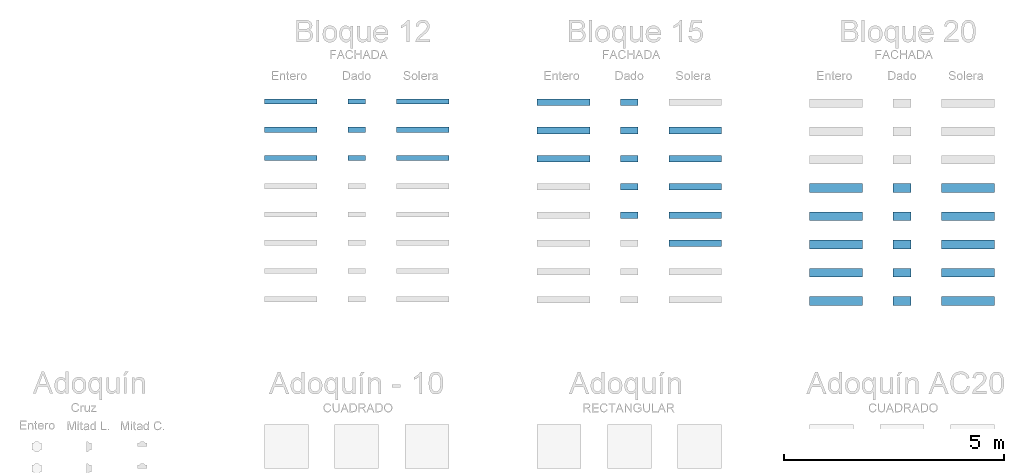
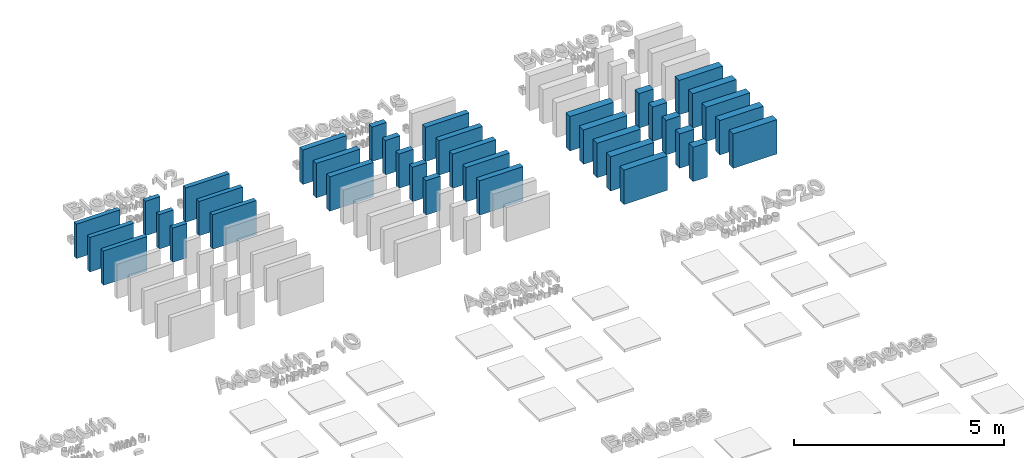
# One storey, part 4 of 19: 37 walls.
"""IFC2X3 building model written with IfcOpenShell, lengths in metres."""

from ifc_helpers import new_model, entity, si_unit, converted_unit, derived_unit, direction, frame, frame_2d, origin, place, context, subcontext, project, spatial, rectangle, extrude, material, layer, layer_set, layer_usage, type_object, element, save


model = new_model("IFC2X3")

# Units and contexts
model_context = context("Model", 3, precision=1e-05, world=origin(), true_north=direction((6.12303176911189e-17, 1.0)))
body_context = subcontext(model_context, "Body", "Model", "MODEL_VIEW")
ifc_project = project(units=[si_unit("LENGTHUNIT", "METRE"), si_unit("AREAUNIT", "SQUARE_METRE"), si_unit("VOLUMEUNIT", "CUBIC_METRE"), converted_unit("PLANEANGLEUNIT", "DEGREE", entity("IfcRatioMeasure", 0.0174532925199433), si_unit("PLANEANGLEUNIT", "RADIAN"), dimensions=[0, 0, 0, 0, 0, 0, 0]), si_unit("MASSUNIT", "GRAM", prefix="KILO"), derived_unit("MASSDENSITYUNIT", [(si_unit("MASSUNIT", "GRAM", prefix="KILO"), 1), (si_unit("LENGTHUNIT", "METRE"), -3)]), derived_unit("MOMENTOFINERTIAUNIT", [(si_unit("LENGTHUNIT", "METRE"), 4)]), si_unit("TIMEUNIT", "SECOND"), si_unit("FREQUENCYUNIT", "HERTZ"), si_unit("THERMODYNAMICTEMPERATUREUNIT", "DEGREE_CELSIUS"), derived_unit("THERMALTRANSMITTANCEUNIT", [(si_unit("MASSUNIT", "GRAM", prefix="KILO"), 1), (si_unit("THERMODYNAMICTEMPERATUREUNIT", "KELVIN"), -1), (si_unit("TIMEUNIT", "SECOND"), -3)]), derived_unit("VOLUMETRICFLOWRATEUNIT", [(si_unit("LENGTHUNIT", "METRE"), 3), (si_unit("TIMEUNIT", "SECOND"), -1)]), si_unit("ELECTRICCURRENTUNIT", "AMPERE"), si_unit("ELECTRICVOLTAGEUNIT", "VOLT"), si_unit("POWERUNIT", "WATT"), si_unit("FORCEUNIT", "NEWTON", prefix="KILO"), si_unit("ILLUMINANCEUNIT", "LUX"), si_unit("LUMINOUSFLUXUNIT", "LUMEN"), si_unit("LUMINOUSINTENSITYUNIT", "CANDELA"), derived_unit("USERDEFINED", [(si_unit("MASSUNIT", "GRAM", prefix="KILO"), -1), (si_unit("LENGTHUNIT", "METRE"), -2), (si_unit("TIMEUNIT", "SECOND"), 3), (si_unit("LUMINOUSFLUXUNIT", "LUMEN"), 1)]), derived_unit("LINEARVELOCITYUNIT", [(si_unit("LENGTHUNIT", "METRE"), 1), (si_unit("TIMEUNIT", "SECOND"), -1)]), si_unit("PRESSUREUNIT", "PASCAL"), derived_unit("USERDEFINED", [(si_unit("LENGTHUNIT", "METRE"), -2), (si_unit("MASSUNIT", "GRAM", prefix="KILO"), 1), (si_unit("TIMEUNIT", "SECOND"), -2)]), derived_unit("LINEARFORCEUNIT", [(si_unit("MASSUNIT", "GRAM", prefix="KILO"), 1), (si_unit("LENGTHUNIT", "METRE"), 1), (si_unit("TIMEUNIT", "SECOND"), -2), (si_unit("LENGTHUNIT", "METRE"), -1)]), derived_unit("PLANARFORCEUNIT", [(si_unit("MASSUNIT", "GRAM", prefix="KILO"), 1), (si_unit("LENGTHUNIT", "METRE"), 1), (si_unit("TIMEUNIT", "SECOND"), -2), (si_unit("LENGTHUNIT", "METRE"), -2)])], contexts=[model_context])

# Site, building, storey
site_placement = place(None, origin())
site = spatial("IfcSite", under=ifc_project, at=site_placement, Name="Default", CompositionType="ELEMENT")
building_placement = place(site_placement, origin())
building = spatial("IfcBuilding", under=site, at=building_placement, CompositionType="ELEMENT")
storey_placement = place(building_placement, origin())
storey = spatial("IfcBuildingStorey", under=building, at=storey_placement, Name="Nivel 1", CompositionType="ELEMENT", Elevation=0.0)

# Walls
ifc_material_1 = material(Name="Bloque - Natural")
ifc_layer_1 = layer(ifc_material_1, 0.12)
ifc_layer_set_1 = layer_set([ifc_layer_1], Name="Muro básico:Bloque 12 / Fachada - Natural")
ifc_layer_usage_1 = layer_usage(ifc_layer_set_1, "AXIS2", "NEGATIVE", 0.06)
wall_type_1 = type_object("IfcWallType", Name="Muro básico:Bloque 12 / Fachada - Natural", PredefinedType="STANDARD", material=ifc_layer_set_1)
wall_1_placement = place(storey_placement, frame((-5.44851232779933, 9.56087767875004, 0.0)))
element("IfcWallStandardCase", 1, at=wall_1_placement, inside=storey, type_object=wall_type_1, material=ifc_layer_usage_1, Name="Muro básico:Bloque 12 / Fachada - Natural", ObjectType="Muro básico:Bloque 12 / Fachada - Natural", context=body_context, shape_type="SweptSolid", body=[
    extrude(rectangle(XDim=1.2, YDim=0.120000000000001, at=frame_2d((0.6, 4.5102810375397e-17), x_axis=(-1.0, 0.0))), origin(), (0.0, 0.0, 1.0), 1.0),
])
ifc_material_2 = material(Name="Bloque - Rosado")
ifc_layer_2 = layer(ifc_material_2, 0.12)
ifc_layer_set_2 = layer_set([ifc_layer_2], Name="Muro básico:Bloque 12 / Fachada - Rosado")
ifc_layer_usage_2 = layer_usage(ifc_layer_set_2, "AXIS2", "NEGATIVE", 0.06)
wall_type_2 = type_object("IfcWallType", Name="Muro básico:Bloque 12 / Fachada - Rosado", PredefinedType="STANDARD", material=ifc_layer_set_2)
wall_2_placement = place(storey_placement, frame((-5.44851232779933, 8.91899828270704, 0.0)))
element("IfcWallStandardCase", 2, at=wall_2_placement, inside=storey, type_object=wall_type_2, material=ifc_layer_usage_2, Name="Muro básico:Bloque 12 / Fachada - Rosado", ObjectType="Muro básico:Bloque 12 / Fachada - Rosado", context=body_context, shape_type="SweptSolid", body=[
    extrude(rectangle(XDim=1.2, YDim=0.120000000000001, at=frame_2d((0.6, 2.4980018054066e-16), x_axis=(-1.0, 0.0))), origin(), (0.0, 0.0, 1.0), 1.0),
])
ifc_material_3 = material(Name="Bloque - Rojo")
ifc_layer_3 = layer(ifc_material_3, 0.12)
ifc_layer_set_3 = layer_set([ifc_layer_3], Name="Muro básico:Bloque 12 / Fachada - Rojo")
ifc_layer_usage_3 = layer_usage(ifc_layer_set_3, "AXIS2", "NEGATIVE", 0.06)
wall_type_3 = type_object("IfcWallType", Name="Muro básico:Bloque 12 / Fachada - Rojo", PredefinedType="STANDARD", material=ifc_layer_set_3)
wall_3_placement = place(storey_placement, frame((-5.44851232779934, 8.27711888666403, 0.0)))
element("IfcWallStandardCase", 3, at=wall_3_placement, inside=storey, type_object=wall_type_3, material=ifc_layer_usage_3, Name="Muro básico:Bloque 12 / Fachada - Rojo", ObjectType="Muro básico:Bloque 12 / Fachada - Rojo", context=body_context, shape_type="SweptSolid", body=[
    extrude(rectangle(XDim=1.2, YDim=0.120000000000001, at=frame_2d((0.6, 2.4980018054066e-16), x_axis=(-1.0, 0.0))), origin(), (0.0, 0.0, 1.0), 1.0),
])
ifc_material_4 = material(Name="Bloque (Dado) - Natural")
ifc_layer_4 = layer(ifc_material_4, 0.12)
ifc_layer_set_4 = layer_set([ifc_layer_4], Name="Muro básico:Bloque 12 (Dado) / Fachada - Natural")
ifc_layer_usage_4 = layer_usage(ifc_layer_set_4, "AXIS2", "NEGATIVE", 0.06)
wall_type_4 = type_object("IfcWallType", Name="Muro básico:Bloque 12 (Dado) / Fachada - Natural", PredefinedType="STANDARD", material=ifc_layer_set_4)
wall_4_placement = place(storey_placement, frame((-3.54851232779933, 9.56087767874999, 0.0)))
element("IfcWallStandardCase", 4, at=wall_4_placement, inside=storey, type_object=wall_type_4, material=ifc_layer_usage_4, Name="Muro básico:Bloque 12 (Dado) / Fachada - Natural", ObjectType="Muro básico:Bloque 12 (Dado) / Fachada - Natural", context=body_context, shape_type="SweptSolid", body=[
    extrude(rectangle(XDim=0.4, YDim=0.120000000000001, at=frame_2d((0.2, 1.38777878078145e-17), x_axis=(-1.0, 0.0))), origin(), (0.0, 0.0, 1.0), 1.0),
])
ifc_material_5 = material(Name="Bloque (Dado) - Rosado")
ifc_layer_5 = layer(ifc_material_5, 0.12)
ifc_layer_set_5 = layer_set([ifc_layer_5], Name="Muro básico:Bloque 12 (Dado) / Fachada - Rosado")
ifc_layer_usage_5 = layer_usage(ifc_layer_set_5, "AXIS2", "NEGATIVE", 0.06)
wall_type_5 = type_object("IfcWallType", Name="Muro básico:Bloque 12 (Dado) / Fachada - Rosado", PredefinedType="STANDARD", material=ifc_layer_set_5)
wall_5_placement = place(storey_placement, frame((-3.54851232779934, 8.91899828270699, 0.0)))
element("IfcWallStandardCase", 5, at=wall_5_placement, inside=storey, type_object=wall_type_5, material=ifc_layer_usage_5, Name="Muro básico:Bloque 12 (Dado) / Fachada - Rosado", ObjectType="Muro básico:Bloque 12 (Dado) / Fachada - Rosado", context=body_context, shape_type="SweptSolid", body=[
    extrude(rectangle(XDim=0.4, YDim=0.120000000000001, at=frame_2d((0.2, 1.38777878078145e-17), x_axis=(-1.0, 0.0))), origin(), (0.0, 0.0, 1.0), 1.0),
])
ifc_material_6 = material(Name="Bloque (Dado) - Rojo")
ifc_layer_6 = layer(ifc_material_6, 0.12)
ifc_layer_set_6 = layer_set([ifc_layer_6], Name="Muro básico:Bloque 12 (Dado) / Fachada - Rojo")
ifc_layer_usage_6 = layer_usage(ifc_layer_set_6, "AXIS2", "NEGATIVE", 0.06)
wall_type_6 = type_object("IfcWallType", Name="Muro básico:Bloque 12 (Dado) / Fachada - Rojo", PredefinedType="STANDARD", material=ifc_layer_set_6)
wall_6_placement = place(storey_placement, frame((-3.54851232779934, 8.27711888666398, 0.0)))
element("IfcWallStandardCase", 6, at=wall_6_placement, inside=storey, type_object=wall_type_6, material=ifc_layer_usage_6, Name="Muro básico:Bloque 12 (Dado) / Fachada - Rojo", ObjectType="Muro básico:Bloque 12 (Dado) / Fachada - Rojo", context=body_context, shape_type="SweptSolid", body=[
    extrude(rectangle(XDim=0.4, YDim=0.120000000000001, at=frame_2d((0.2, 1.38777878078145e-17), x_axis=(-1.0, 0.0))), origin(), (0.0, 0.0, 1.0), 1.0),
])
ifc_layer_7 = layer(ifc_material_1, 0.12)
ifc_layer_set_7 = layer_set([ifc_layer_7], Name="Muro básico:Bloque 12 (Solera) / Fachada - Natural")
ifc_layer_usage_7 = layer_usage(ifc_layer_set_7, "AXIS2", "NEGATIVE", 0.06)
wall_type_7 = type_object("IfcWallType", Name="Muro básico:Bloque 12 (Solera) / Fachada - Natural", PredefinedType="STANDARD", material=ifc_layer_set_7)
wall_7_placement = place(storey_placement, frame((-2.44851232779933, 9.56087767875, 0.0)))
element("IfcWallStandardCase", 7, at=wall_7_placement, inside=storey, type_object=wall_type_7, material=ifc_layer_usage_7, Name="Muro básico:Bloque 12 (Solera) / Fachada - Natural", ObjectType="Muro básico:Bloque 12 (Solera) / Fachada - Natural", context=body_context, shape_type="SweptSolid", body=[
    extrude(rectangle(XDim=1.2, YDim=0.120000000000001, at=frame_2d((0.6, 4.5102810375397e-17), x_axis=(-1.0, 0.0))), origin(), (0.0, 0.0, 1.0), 1.0),
])
ifc_layer_8 = layer(ifc_material_2, 0.12)
ifc_layer_set_8 = layer_set([ifc_layer_8], Name="Muro básico:Bloque 12 (Solera) / Fachada - Rosado")
ifc_layer_usage_8 = layer_usage(ifc_layer_set_8, "AXIS2", "NEGATIVE", 0.06)
wall_type_8 = type_object("IfcWallType", Name="Muro básico:Bloque 12 (Solera) / Fachada - Rosado", PredefinedType="STANDARD", material=ifc_layer_set_8)
wall_8_placement = place(storey_placement, frame((-2.44851232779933, 8.91899828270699, 0.0)))
element("IfcWallStandardCase", 8, at=wall_8_placement, inside=storey, type_object=wall_type_8, material=ifc_layer_usage_8, Name="Muro básico:Bloque 12 (Solera) / Fachada - Rosado", ObjectType="Muro básico:Bloque 12 (Solera) / Fachada - Rosado", context=body_context, shape_type="SweptSolid", body=[
    extrude(rectangle(XDim=1.2, YDim=0.120000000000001, at=frame_2d((0.600000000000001, 2.4980018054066e-16), x_axis=(-1.0, 0.0))), origin(), (0.0, 0.0, 1.0), 1.0),
])
ifc_layer_9 = layer(ifc_material_3, 0.12)
ifc_layer_set_9 = layer_set([ifc_layer_9], Name="Muro básico:Bloque 12 (Solera) / Fachada - Rojo")
ifc_layer_usage_9 = layer_usage(ifc_layer_set_9, "AXIS2", "NEGATIVE", 0.06)
wall_type_9 = type_object("IfcWallType", Name="Muro básico:Bloque 12 (Solera) / Fachada - Rojo", PredefinedType="STANDARD", material=ifc_layer_set_9)
wall_9_placement = place(storey_placement, frame((-2.44851232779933, 8.27711888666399, 0.0)))
element("IfcWallStandardCase", 9, at=wall_9_placement, inside=storey, type_object=wall_type_9, material=ifc_layer_usage_9, Name="Muro básico:Bloque 12 (Solera) / Fachada - Rojo", ObjectType="Muro básico:Bloque 12 (Solera) / Fachada - Rojo", context=body_context, shape_type="SweptSolid", body=[
    extrude(rectangle(XDim=1.2, YDim=0.120000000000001, at=frame_2d((0.600000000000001, 2.4980018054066e-16), x_axis=(-1.0, 0.0))), origin(), (0.0, 0.0, 1.0), 1.0),
])
ifc_layer_10 = layer(ifc_material_1, 0.15)
ifc_layer_set_10 = layer_set([ifc_layer_10], Name="Muro básico:Bloque 15 / Fachada - Natural")
ifc_layer_usage_10 = layer_usage(ifc_layer_set_10, "AXIS2", "NEGATIVE", 0.075)
wall_type_10 = type_object("IfcWallType", Name="Muro básico:Bloque 15 / Fachada - Natural", PredefinedType="STANDARD", material=ifc_layer_set_10)
wall_10_placement = place(storey_placement, frame((0.751487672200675, 9.54587767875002, 0.0)))
element("IfcWallStandardCase", 10, at=wall_10_placement, inside=storey, type_object=wall_type_10, material=ifc_layer_usage_10, Name="Muro básico:Bloque 15 / Fachada - Natural", ObjectType="Muro básico:Bloque 15 / Fachada - Natural", context=body_context, shape_type="SweptSolid", body=[
    extrude(rectangle(XDim=1.2, YDim=0.150000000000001, at=frame_2d((0.6, 4.16333634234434e-17), x_axis=(-1.0, 0.0))), origin(), (0.0, 0.0, 1.0), 1.0),
])
ifc_layer_11 = layer(ifc_material_4, 0.15)
ifc_layer_set_11 = layer_set([ifc_layer_11], Name="Muro básico:Bloque 15 (Dado) / Fachada - Natural")
ifc_layer_usage_11 = layer_usage(ifc_layer_set_11, "AXIS2", "NEGATIVE", 0.075)
wall_type_11 = type_object("IfcWallType", Name="Muro básico:Bloque 15 (Dado) / Fachada - Natural", PredefinedType="STANDARD", material=ifc_layer_set_11)
wall_11_placement = place(storey_placement, frame((2.65148767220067, 9.54587767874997, 0.0)))
element("IfcWallStandardCase", 11, at=wall_11_placement, inside=storey, type_object=wall_type_11, material=ifc_layer_usage_11, Name="Muro básico:Bloque 15 (Dado) / Fachada - Natural", ObjectType="Muro básico:Bloque 15 (Dado) / Fachada - Natural", context=body_context, shape_type="SweptSolid", body=[
    extrude(rectangle(XDim=0.4, YDim=0.150000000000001, at=frame_2d((0.2, 1.38777878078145e-17), x_axis=(-1.0, 0.0))), origin(), (0.0, 0.0, 1.0), 1.0),
])
ifc_layer_12 = layer(ifc_material_2, 0.15)
ifc_layer_set_12 = layer_set([ifc_layer_12], Name="Muro básico:Bloque 15 / Fachada - Rosado")
ifc_layer_usage_12 = layer_usage(ifc_layer_set_12, "AXIS2", "NEGATIVE", 0.075)
wall_type_12 = type_object("IfcWallType", Name="Muro básico:Bloque 15 / Fachada - Rosado", PredefinedType="STANDARD", material=ifc_layer_set_12)
wall_12_placement = place(storey_placement, frame((0.751487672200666, 8.90399828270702, 0.0)))
element("IfcWallStandardCase", 12, at=wall_12_placement, inside=storey, type_object=wall_type_12, material=ifc_layer_usage_12, Name="Muro básico:Bloque 15 / Fachada - Rosado", ObjectType="Muro básico:Bloque 15 / Fachada - Rosado", context=body_context, shape_type="SweptSolid", body=[
    extrude(rectangle(XDim=1.2, YDim=0.150000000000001, at=frame_2d((0.6, 4.16333634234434e-17), x_axis=(-1.0, 0.0))), origin(), (0.0, 0.0, 1.0), 1.0),
])
ifc_layer_13 = layer(ifc_material_3, 0.15)
ifc_layer_set_13 = layer_set([ifc_layer_13], Name="Muro básico:Bloque 15 / Fachada - Rojo")
ifc_layer_usage_13 = layer_usage(ifc_layer_set_13, "AXIS2", "NEGATIVE", 0.075)
wall_type_13 = type_object("IfcWallType", Name="Muro básico:Bloque 15 / Fachada - Rojo", PredefinedType="STANDARD", material=ifc_layer_set_13)
wall_13_placement = place(storey_placement, frame((0.751487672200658, 8.26211888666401, 0.0)))
element("IfcWallStandardCase", 13, at=wall_13_placement, inside=storey, type_object=wall_type_13, material=ifc_layer_usage_13, Name="Muro básico:Bloque 15 / Fachada - Rojo", ObjectType="Muro básico:Bloque 15 / Fachada - Rojo", context=body_context, shape_type="SweptSolid", body=[
    extrude(rectangle(XDim=1.2, YDim=0.150000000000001, at=frame_2d((0.6, 4.16333634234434e-17), x_axis=(-1.0, 0.0))), origin(), (0.0, 0.0, 1.0), 1.0),
])
ifc_layer_14 = layer(ifc_material_5, 0.15)
ifc_layer_set_14 = layer_set([ifc_layer_14], Name="Muro básico:Bloque 15 (Dado) / Fachada - Rosado")
ifc_layer_usage_14 = layer_usage(ifc_layer_set_14, "AXIS2", "NEGATIVE", 0.075)
wall_type_14 = type_object("IfcWallType", Name="Muro básico:Bloque 15 (Dado) / Fachada - Rosado", PredefinedType="STANDARD", material=ifc_layer_set_14)
wall_14_placement = place(storey_placement, frame((2.65148767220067, 8.90399828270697, 0.0)))
element("IfcWallStandardCase", 14, at=wall_14_placement, inside=storey, type_object=wall_type_14, material=ifc_layer_usage_14, Name="Muro básico:Bloque 15 (Dado) / Fachada - Rosado", ObjectType="Muro básico:Bloque 15 (Dado) / Fachada - Rosado", context=body_context, shape_type="SweptSolid", body=[
    extrude(rectangle(XDim=0.4, YDim=0.150000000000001, at=frame_2d((0.2, 1.38777878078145e-17), x_axis=(-1.0, 0.0))), origin(), (0.0, 0.0, 1.0), 1.0),
])
ifc_layer_15 = layer(ifc_material_6, 0.15)
ifc_layer_set_15 = layer_set([ifc_layer_15], Name="Muro básico:Bloque 15 (Dado) / Fachada - Rojo")
ifc_layer_usage_15 = layer_usage(ifc_layer_set_15, "AXIS2", "NEGATIVE", 0.075)
wall_type_15 = type_object("IfcWallType", Name="Muro básico:Bloque 15 (Dado) / Fachada - Rojo", PredefinedType="STANDARD", material=ifc_layer_set_15)
wall_15_placement = place(storey_placement, frame((2.65148767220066, 8.26211888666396, 0.0)))
element("IfcWallStandardCase", 15, at=wall_15_placement, inside=storey, type_object=wall_type_15, material=ifc_layer_usage_15, Name="Muro básico:Bloque 15 (Dado) / Fachada - Rojo", ObjectType="Muro básico:Bloque 15 (Dado) / Fachada - Rojo", context=body_context, shape_type="SweptSolid", body=[
    extrude(rectangle(XDim=0.4, YDim=0.150000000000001, at=frame_2d((0.2, 1.38777878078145e-17), x_axis=(-1.0, 0.0))), origin(), (0.0, 0.0, 1.0), 1.0),
])
ifc_material_7 = material(Name="Bloque (Dado) - Adobe")
ifc_layer_16 = layer(ifc_material_7, 0.15)
ifc_layer_set_16 = layer_set([ifc_layer_16], Name="Muro básico:Bloque 15 (Dado) / Fachada - Adobe")
ifc_layer_usage_16 = layer_usage(ifc_layer_set_16, "AXIS2", "NEGATIVE", 0.075)
wall_type_16 = type_object("IfcWallType", Name="Muro básico:Bloque 15 (Dado) / Fachada - Adobe", PredefinedType="STANDARD", material=ifc_layer_set_16)
wall_16_placement = place(storey_placement, frame((2.65148767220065, 7.62023949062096, 0.0)))
element("IfcWallStandardCase", 16, at=wall_16_placement, inside=storey, type_object=wall_type_16, material=ifc_layer_usage_16, Name="Muro básico:Bloque 15 (Dado) / Fachada - Adobe", ObjectType="Muro básico:Bloque 15 (Dado) / Fachada - Adobe", context=body_context, shape_type="SweptSolid", body=[
    extrude(rectangle(XDim=0.4, YDim=0.150000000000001, at=frame_2d((0.2, 1.38777878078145e-17), x_axis=(-1.0, 0.0))), origin(), (0.0, 0.0, 1.0), 1.0),
])
ifc_material_8 = material(Name="Bloque (Dado) - Amarillo")
ifc_layer_17 = layer(ifc_material_8, 0.15)
ifc_layer_set_17 = layer_set([ifc_layer_17], Name="Muro básico:Bloque 15 (Dado) / Fachada - Amarillo")
ifc_layer_usage_17 = layer_usage(ifc_layer_set_17, "AXIS2", "NEGATIVE", 0.075)
wall_type_17 = type_object("IfcWallType", Name="Muro básico:Bloque 15 (Dado) / Fachada - Amarillo", PredefinedType="STANDARD", material=ifc_layer_set_17)
wall_17_placement = place(storey_placement, frame((2.65148767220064, 6.97836009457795, 0.0)))
element("IfcWallStandardCase", 17, at=wall_17_placement, inside=storey, type_object=wall_type_17, material=ifc_layer_usage_17, Name="Muro básico:Bloque 15 (Dado) / Fachada - Amarillo", ObjectType="Muro básico:Bloque 15 (Dado) / Fachada - Amarillo", context=body_context, shape_type="SweptSolid", body=[
    extrude(rectangle(XDim=0.4, YDim=0.150000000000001, at=frame_2d((0.2, 1.38777878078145e-17), x_axis=(-1.0, 0.0))), origin(), (0.0, 0.0, 1.0), 1.0),
])
ifc_layer_18 = layer(ifc_material_2, 0.15)
ifc_layer_set_18 = layer_set([ifc_layer_18], Name="Muro básico:Bloque 15 (Solera) / Fachada - Rosado")
ifc_layer_usage_18 = layer_usage(ifc_layer_set_18, "AXIS2", "NEGATIVE", 0.075)
wall_type_18 = type_object("IfcWallType", Name="Muro básico:Bloque 15 (Solera) / Fachada - Rosado", PredefinedType="STANDARD", material=ifc_layer_set_18)
wall_18_placement = place(storey_placement, frame((3.75148767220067, 8.90399828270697, 0.0)))
element("IfcWallStandardCase", 18, at=wall_18_placement, inside=storey, type_object=wall_type_18, material=ifc_layer_usage_18, Name="Muro básico:Bloque 15 (Solera) / Fachada - Rosado", ObjectType="Muro básico:Bloque 15 (Solera) / Fachada - Rosado", context=body_context, shape_type="SweptSolid", body=[
    extrude(rectangle(XDim=1.2, YDim=0.150000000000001, at=frame_2d((0.6, 4.16333634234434e-17), x_axis=(-1.0, 0.0))), origin(), (0.0, 0.0, 1.0), 1.0),
])
ifc_layer_19 = layer(ifc_material_3, 0.15)
ifc_layer_set_19 = layer_set([ifc_layer_19], Name="Muro básico:Bloque 15 (Solera) / Fachada - Rojo")
ifc_layer_usage_19 = layer_usage(ifc_layer_set_19, "AXIS2", "NEGATIVE", 0.075)
wall_type_19 = type_object("IfcWallType", Name="Muro básico:Bloque 15 (Solera) / Fachada - Rojo", PredefinedType="STANDARD", material=ifc_layer_set_19)
wall_19_placement = place(storey_placement, frame((3.75148767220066, 8.26211888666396, 0.0)))
element("IfcWallStandardCase", 19, at=wall_19_placement, inside=storey, type_object=wall_type_19, material=ifc_layer_usage_19, Name="Muro básico:Bloque 15 (Solera) / Fachada - Rojo", ObjectType="Muro básico:Bloque 15 (Solera) / Fachada - Rojo", context=body_context, shape_type="SweptSolid", body=[
    extrude(rectangle(XDim=1.2, YDim=0.150000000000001, at=frame_2d((0.6, 4.16333634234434e-17), x_axis=(-1.0, 0.0))), origin(), (0.0, 0.0, 1.0), 1.0),
])
ifc_material_9 = material(Name="Bloque - Adobe")
ifc_layer_20 = layer(ifc_material_9, 0.15)
ifc_layer_set_20 = layer_set([ifc_layer_20], Name="Muro básico:Bloque 15 (Solera) / Fachada - Adobe")
ifc_layer_usage_20 = layer_usage(ifc_layer_set_20, "AXIS2", "NEGATIVE", 0.075)
wall_type_20 = type_object("IfcWallType", Name="Muro básico:Bloque 15 (Solera) / Fachada - Adobe", PredefinedType="STANDARD", material=ifc_layer_set_20)
wall_20_placement = place(storey_placement, frame((3.75148767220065, 7.62023949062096, 0.0)))
element("IfcWallStandardCase", 20, at=wall_20_placement, inside=storey, type_object=wall_type_20, material=ifc_layer_usage_20, Name="Muro básico:Bloque 15 (Solera) / Fachada - Adobe", ObjectType="Muro básico:Bloque 15 (Solera) / Fachada - Adobe", context=body_context, shape_type="SweptSolid", body=[
    extrude(rectangle(XDim=1.2, YDim=0.150000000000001, at=frame_2d((0.6, 4.16333634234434e-17), x_axis=(-1.0, 0.0))), origin(), (0.0, 0.0, 1.0), 1.0),
])
ifc_material_10 = material(Name="Bloque - Amarillo")
ifc_layer_21 = layer(ifc_material_10, 0.15)
ifc_layer_set_21 = layer_set([ifc_layer_21], Name="Muro básico:Bloque 15 (Solera) / Fachada - Amarillo")
ifc_layer_usage_21 = layer_usage(ifc_layer_set_21, "AXIS2", "NEGATIVE", 0.075)
wall_type_21 = type_object("IfcWallType", Name="Muro básico:Bloque 15 (Solera) / Fachada - Amarillo", PredefinedType="STANDARD", material=ifc_layer_set_21)
wall_21_placement = place(storey_placement, frame((3.75148767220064, 6.97836009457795, 0.0)))
element("IfcWallStandardCase", 21, at=wall_21_placement, inside=storey, type_object=wall_type_21, material=ifc_layer_usage_21, Name="Muro básico:Bloque 15 (Solera) / Fachada - Amarillo", ObjectType="Muro básico:Bloque 15 (Solera) / Fachada - Amarillo", context=body_context, shape_type="SweptSolid", body=[
    extrude(rectangle(XDim=1.2, YDim=0.150000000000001, at=frame_2d((0.6, 4.16333634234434e-17), x_axis=(-1.0, 0.0))), origin(), (0.0, 0.0, 1.0), 1.0),
])
ifc_material_11 = material(Name="Bloque - Gris")
ifc_layer_22 = layer(ifc_material_11, 0.15)
ifc_layer_set_22 = layer_set([ifc_layer_22], Name="Muro básico:Bloque 15 (Solera) / Fachada - Gris")
ifc_layer_usage_22 = layer_usage(ifc_layer_set_22, "AXIS2", "NEGATIVE", 0.075)
wall_type_22 = type_object("IfcWallType", Name="Muro básico:Bloque 15 (Solera) / Fachada - Gris", PredefinedType="STANDARD", material=ifc_layer_set_22)
wall_22_placement = place(storey_placement, frame((3.75148767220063, 6.33648069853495, 0.0)))
element("IfcWallStandardCase", 22, at=wall_22_placement, inside=storey, type_object=wall_type_22, material=ifc_layer_usage_22, Name="Muro básico:Bloque 15 (Solera) / Fachada - Gris", ObjectType="Muro básico:Bloque 15 (Solera) / Fachada - Gris", context=body_context, shape_type="SweptSolid", body=[
    extrude(rectangle(XDim=1.2, YDim=0.150000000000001, at=frame_2d((0.6, 4.16333634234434e-17), x_axis=(-1.0, 0.0))), origin(), (0.0, 0.0, 1.0), 1.0),
])
ifc_layer_23 = layer(ifc_material_9, 0.2)
ifc_layer_set_23 = layer_set([ifc_layer_23], Name="Muro básico:Bloque 20 / Fachada - Adobe")
ifc_layer_usage_23 = layer_usage(ifc_layer_set_23, "AXIS2", "NEGATIVE", 0.1)
wall_type_23 = type_object("IfcWallType", Name="Muro básico:Bloque 20 / Fachada - Adobe", PredefinedType="STANDARD", material=ifc_layer_set_23)
wall_23_placement = place(storey_placement, frame((6.95148767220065, 7.59523949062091, 0.0)))
element("IfcWallStandardCase", 23, at=wall_23_placement, inside=storey, type_object=wall_type_23, material=ifc_layer_usage_23, Name="Muro básico:Bloque 20 / Fachada - Adobe", ObjectType="Muro básico:Bloque 20 / Fachada - Adobe", context=body_context, shape_type="SweptSolid", body=[
    extrude(rectangle(XDim=1.2, YDim=0.2, at=frame_2d((0.600000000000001, 4.16333634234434e-17), x_axis=(-1.0, 0.0))), origin(), (0.0, 0.0, 1.0), 1.0),
])
ifc_layer_24 = layer(ifc_material_10, 0.2)
ifc_layer_set_24 = layer_set([ifc_layer_24], Name="Muro básico:Bloque 20 / Fachada - Amarillo")
ifc_layer_usage_24 = layer_usage(ifc_layer_set_24, "AXIS2", "NEGATIVE", 0.1)
wall_type_24 = type_object("IfcWallType", Name="Muro básico:Bloque 20 / Fachada - Amarillo", PredefinedType="STANDARD", material=ifc_layer_set_24)
wall_24_placement = place(storey_placement, frame((6.95148767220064, 6.95336009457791, 0.0)))
element("IfcWallStandardCase", 24, at=wall_24_placement, inside=storey, type_object=wall_type_24, material=ifc_layer_usage_24, Name="Muro básico:Bloque 20 / Fachada - Amarillo", ObjectType="Muro básico:Bloque 20 / Fachada - Amarillo", context=body_context, shape_type="SweptSolid", body=[
    extrude(rectangle(XDim=1.2, YDim=0.2, at=frame_2d((0.600000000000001, 4.16333634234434e-17), x_axis=(-1.0, 0.0))), origin(), (0.0, 0.0, 1.0), 1.0),
])
ifc_layer_25 = layer(ifc_material_11, 0.2)
ifc_layer_set_25 = layer_set([ifc_layer_25], Name="Muro básico:Bloque 20 / Fachada - Gris")
ifc_layer_usage_25 = layer_usage(ifc_layer_set_25, "AXIS2", "NEGATIVE", 0.1)
wall_type_25 = type_object("IfcWallType", Name="Muro básico:Bloque 20 / Fachada - Gris", PredefinedType="STANDARD", material=ifc_layer_set_25)
wall_25_placement = place(storey_placement, frame((6.95148767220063, 6.3114806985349, 0.0)))
element("IfcWallStandardCase", 25, at=wall_25_placement, inside=storey, type_object=wall_type_25, material=ifc_layer_usage_25, Name="Muro básico:Bloque 20 / Fachada - Gris", ObjectType="Muro básico:Bloque 20 / Fachada - Gris", context=body_context, shape_type="SweptSolid", body=[
    extrude(rectangle(XDim=1.2, YDim=0.2, at=frame_2d((0.600000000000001, 4.16333634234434e-17), x_axis=(-1.0, 0.0))), origin(), (0.0, 0.0, 1.0), 1.0),
])
ifc_material_12 = material(Name="Bloque - Chocolate")
ifc_layer_26 = layer(ifc_material_12, 0.2)
ifc_layer_set_26 = layer_set([ifc_layer_26], Name="Muro básico:Bloque 20 / Fachada - Chocolate")
ifc_layer_usage_26 = layer_usage(ifc_layer_set_26, "AXIS2", "NEGATIVE", 0.1)
wall_type_26 = type_object("IfcWallType", Name="Muro básico:Bloque 20 / Fachada - Chocolate", PredefinedType="STANDARD", material=ifc_layer_set_26)
wall_26_placement = place(storey_placement, frame((6.95148767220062, 5.6696013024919, 0.0)))
element("IfcWallStandardCase", 26, at=wall_26_placement, inside=storey, type_object=wall_type_26, material=ifc_layer_usage_26, Name="Muro básico:Bloque 20 / Fachada - Chocolate", ObjectType="Muro básico:Bloque 20 / Fachada - Chocolate", context=body_context, shape_type="SweptSolid", body=[
    extrude(rectangle(XDim=1.2, YDim=0.2, at=frame_2d((0.600000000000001, 4.16333634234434e-17), x_axis=(-1.0, 0.0))), origin(), (0.0, 0.0, 1.0), 1.0),
])
ifc_material_13 = material(Name="Bloque - Negro")
ifc_layer_27 = layer(ifc_material_13, 0.2)
ifc_layer_set_27 = layer_set([ifc_layer_27], Name="Muro básico:Bloque 20 / Fachada - Negro")
ifc_layer_usage_27 = layer_usage(ifc_layer_set_27, "AXIS2", "NEGATIVE", 0.1)
wall_type_27 = type_object("IfcWallType", Name="Muro básico:Bloque 20 / Fachada - Negro", PredefinedType="STANDARD", material=ifc_layer_set_27)
wall_27_placement = place(storey_placement, frame((6.95148767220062, 5.0277219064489, 0.0)))
element("IfcWallStandardCase", 27, at=wall_27_placement, inside=storey, type_object=wall_type_27, material=ifc_layer_usage_27, Name="Muro básico:Bloque 20 / Fachada - Negro", ObjectType="Muro básico:Bloque 20 / Fachada - Negro", context=body_context, shape_type="SweptSolid", body=[
    extrude(rectangle(XDim=1.2, YDim=0.2, at=frame_2d((0.600000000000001, 4.16333634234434e-17), x_axis=(-1.0, 0.0))), origin(), (0.0, 0.0, 1.0), 1.0),
])
ifc_layer_28 = layer(ifc_material_7, 0.2)
ifc_layer_set_28 = layer_set([ifc_layer_28], Name="Muro básico:Bloque 20 (Dado) / Fachada - Adobe")
ifc_layer_usage_28 = layer_usage(ifc_layer_set_28, "AXIS2", "NEGATIVE", 0.1)
wall_type_28 = type_object("IfcWallType", Name="Muro básico:Bloque 20 (Dado) / Fachada - Adobe", PredefinedType="STANDARD", material=ifc_layer_set_28)
wall_28_placement = place(storey_placement, frame((8.85148767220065, 7.59523949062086, 0.0)))
element("IfcWallStandardCase", 28, at=wall_28_placement, inside=storey, type_object=wall_type_28, material=ifc_layer_usage_28, Name="Muro básico:Bloque 20 (Dado) / Fachada - Adobe", ObjectType="Muro básico:Bloque 20 (Dado) / Fachada - Adobe", context=body_context, shape_type="SweptSolid", body=[
    extrude(rectangle(XDim=0.400000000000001, YDim=0.2, at=frame_2d((0.200000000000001, 2.08166817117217e-17), x_axis=(-1.0, 0.0))), origin(), (0.0, 0.0, 1.0), 1.0),
])
ifc_layer_29 = layer(ifc_material_8, 0.2)
ifc_layer_set_29 = layer_set([ifc_layer_29], Name="Muro básico:Bloque 20 (Dado) / Fachada - Amarillo")
ifc_layer_usage_29 = layer_usage(ifc_layer_set_29, "AXIS2", "NEGATIVE", 0.1)
wall_type_29 = type_object("IfcWallType", Name="Muro básico:Bloque 20 (Dado) / Fachada - Amarillo", PredefinedType="STANDARD", material=ifc_layer_set_29)
wall_29_placement = place(storey_placement, frame((8.85148767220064, 6.95336009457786, 0.0)))
element("IfcWallStandardCase", 29, at=wall_29_placement, inside=storey, type_object=wall_type_29, material=ifc_layer_usage_29, Name="Muro básico:Bloque 20 (Dado) / Fachada - Amarillo", ObjectType="Muro básico:Bloque 20 (Dado) / Fachada - Amarillo", context=body_context, shape_type="SweptSolid", body=[
    extrude(rectangle(XDim=0.400000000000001, YDim=0.2, at=frame_2d((0.200000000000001, 2.08166817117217e-17), x_axis=(-1.0, 0.0))), origin(), (0.0, 0.0, 1.0), 1.0),
])
ifc_material_14 = material(Name="Bloque (Dado) - Gris")
ifc_layer_30 = layer(ifc_material_14, 0.2)
ifc_layer_set_30 = layer_set([ifc_layer_30], Name="Muro básico:Bloque 20 (Dado) / Fachada - Gris")
ifc_layer_usage_30 = layer_usage(ifc_layer_set_30, "AXIS2", "NEGATIVE", 0.1)
wall_type_30 = type_object("IfcWallType", Name="Muro básico:Bloque 20 (Dado) / Fachada - Gris", PredefinedType="STANDARD", material=ifc_layer_set_30)
wall_30_placement = place(storey_placement, frame((8.85148767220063, 6.31148069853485, 0.0)))
element("IfcWallStandardCase", 30, at=wall_30_placement, inside=storey, type_object=wall_type_30, material=ifc_layer_usage_30, Name="Muro básico:Bloque 20 (Dado) / Fachada - Gris", ObjectType="Muro básico:Bloque 20 (Dado) / Fachada - Gris", context=body_context, shape_type="SweptSolid", body=[
    extrude(rectangle(XDim=0.400000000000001, YDim=0.2, at=frame_2d((0.200000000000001, 2.08166817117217e-17), x_axis=(-1.0, 0.0))), origin(), (0.0, 0.0, 1.0), 1.0),
])
ifc_material_15 = material(Name="Bloque (Dado) - Chocolate")
ifc_layer_31 = layer(ifc_material_15, 0.2)
ifc_layer_set_31 = layer_set([ifc_layer_31], Name="Muro básico:Bloque 20 (Dado) / Fachada - Chocolate")
ifc_layer_usage_31 = layer_usage(ifc_layer_set_31, "AXIS2", "NEGATIVE", 0.1)
wall_type_31 = type_object("IfcWallType", Name="Muro básico:Bloque 20 (Dado) / Fachada - Chocolate", PredefinedType="STANDARD", material=ifc_layer_set_31)
wall_31_placement = place(storey_placement, frame((8.85148767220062, 5.66960130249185, 0.0)))
element("IfcWallStandardCase", 31, at=wall_31_placement, inside=storey, type_object=wall_type_31, material=ifc_layer_usage_31, Name="Muro básico:Bloque 20 (Dado) / Fachada - Chocolate", ObjectType="Muro básico:Bloque 20 (Dado) / Fachada - Chocolate", context=body_context, shape_type="SweptSolid", body=[
    extrude(rectangle(XDim=0.400000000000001, YDim=0.2, at=frame_2d((0.200000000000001, 2.08166817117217e-17), x_axis=(-1.0, 0.0))), origin(), (0.0, 0.0, 1.0), 1.0),
])
ifc_material_16 = material(Name="Bloque (Dado) - Negro")
ifc_layer_32 = layer(ifc_material_16, 0.2)
ifc_layer_set_32 = layer_set([ifc_layer_32], Name="Muro básico:Bloque 20 (Dado) / Fachada - Negro")
ifc_layer_usage_32 = layer_usage(ifc_layer_set_32, "AXIS2", "NEGATIVE", 0.1)
wall_type_32 = type_object("IfcWallType", Name="Muro básico:Bloque 20 (Dado) / Fachada - Negro", PredefinedType="STANDARD", material=ifc_layer_set_32)
wall_32_placement = place(storey_placement, frame((8.85148767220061, 5.02772190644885, 0.0)))
element("IfcWallStandardCase", 32, at=wall_32_placement, inside=storey, type_object=wall_type_32, material=ifc_layer_usage_32, Name="Muro básico:Bloque 20 (Dado) / Fachada - Negro", ObjectType="Muro básico:Bloque 20 (Dado) / Fachada - Negro", context=body_context, shape_type="SweptSolid", body=[
    extrude(rectangle(XDim=0.400000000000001, YDim=0.2, at=frame_2d((0.200000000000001, 2.08166817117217e-17), x_axis=(-1.0, 0.0))), origin(), (0.0, 0.0, 1.0), 1.0),
])
ifc_layer_33 = layer(ifc_material_9, 0.2)
ifc_layer_set_33 = layer_set([ifc_layer_33], Name="Muro básico:Bloque 20 (Solera) / Fachada - Adobe")
ifc_layer_usage_33 = layer_usage(ifc_layer_set_33, "AXIS2", "NEGATIVE", 0.1)
wall_type_33 = type_object("IfcWallType", Name="Muro básico:Bloque 20 (Solera) / Fachada - Adobe", PredefinedType="STANDARD", material=ifc_layer_set_33)
wall_33_placement = place(storey_placement, frame((9.95148767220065, 7.59523949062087, 0.0)))
element("IfcWallStandardCase", 33, at=wall_33_placement, inside=storey, type_object=wall_type_33, material=ifc_layer_usage_33, Name="Muro básico:Bloque 20 (Solera) / Fachada - Adobe", ObjectType="Muro básico:Bloque 20 (Solera) / Fachada - Adobe", context=body_context, shape_type="SweptSolid", body=[
    extrude(rectangle(XDim=1.2, YDim=0.2, at=frame_2d((0.6, 4.16333634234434e-17), x_axis=(-1.0, 0.0))), origin(), (0.0, 0.0, 1.0), 1.0),
])
ifc_layer_34 = layer(ifc_material_10, 0.2)
ifc_layer_set_34 = layer_set([ifc_layer_34], Name="Muro básico:Bloque 20 (Solera) / Fachada - Amarillo")
ifc_layer_usage_34 = layer_usage(ifc_layer_set_34, "AXIS2", "NEGATIVE", 0.1)
wall_type_34 = type_object("IfcWallType", Name="Muro básico:Bloque 20 (Solera) / Fachada - Amarillo", PredefinedType="STANDARD", material=ifc_layer_set_34)
wall_34_placement = place(storey_placement, frame((9.95148767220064, 6.95336009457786, 0.0)))
element("IfcWallStandardCase", 34, at=wall_34_placement, inside=storey, type_object=wall_type_34, material=ifc_layer_usage_34, Name="Muro básico:Bloque 20 (Solera) / Fachada - Amarillo", ObjectType="Muro básico:Bloque 20 (Solera) / Fachada - Amarillo", context=body_context, shape_type="SweptSolid", body=[
    extrude(rectangle(XDim=1.2, YDim=0.2, at=frame_2d((0.6, 4.16333634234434e-17), x_axis=(-1.0, 0.0))), origin(), (0.0, 0.0, 1.0), 1.0),
])
ifc_layer_35 = layer(ifc_material_11, 0.2)
ifc_layer_set_35 = layer_set([ifc_layer_35], Name="Muro básico:Bloque 20 (Solera) / Fachada - Gris")
ifc_layer_usage_35 = layer_usage(ifc_layer_set_35, "AXIS2", "NEGATIVE", 0.1)
wall_type_35 = type_object("IfcWallType", Name="Muro básico:Bloque 20 (Solera) / Fachada - Gris", PredefinedType="STANDARD", material=ifc_layer_set_35)
wall_35_placement = place(storey_placement, frame((9.95148767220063, 6.31148069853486, 0.0)))
element("IfcWallStandardCase", 35, at=wall_35_placement, inside=storey, type_object=wall_type_35, material=ifc_layer_usage_35, Name="Muro básico:Bloque 20 (Solera) / Fachada - Gris", ObjectType="Muro básico:Bloque 20 (Solera) / Fachada - Gris", context=body_context, shape_type="SweptSolid", body=[
    extrude(rectangle(XDim=1.2, YDim=0.2, at=frame_2d((0.6, 4.16333634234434e-17), x_axis=(-1.0, 0.0))), origin(), (0.0, 0.0, 1.0), 1.0),
])
ifc_layer_36 = layer(ifc_material_12, 0.2)
ifc_layer_set_36 = layer_set([ifc_layer_36], Name="Muro básico:Bloque 20 (Solera) / Fachada - Chocolate")
ifc_layer_usage_36 = layer_usage(ifc_layer_set_36, "AXIS2", "NEGATIVE", 0.1)
wall_type_36 = type_object("IfcWallType", Name="Muro básico:Bloque 20 (Solera) / Fachada - Chocolate", PredefinedType="STANDARD", material=ifc_layer_set_36)
wall_36_placement = place(storey_placement, frame((9.95148767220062, 5.66960130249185, 0.0)))
element("IfcWallStandardCase", 36, at=wall_36_placement, inside=storey, type_object=wall_type_36, material=ifc_layer_usage_36, Name="Muro básico:Bloque 20 (Solera) / Fachada - Chocolate", ObjectType="Muro básico:Bloque 20 (Solera) / Fachada - Chocolate", context=body_context, shape_type="SweptSolid", body=[
    extrude(rectangle(XDim=1.2, YDim=0.2, at=frame_2d((0.6, 4.16333634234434e-17), x_axis=(-1.0, 0.0))), origin(), (0.0, 0.0, 1.0), 1.0),
])
ifc_layer_37 = layer(ifc_material_13, 0.2)
ifc_layer_set_37 = layer_set([ifc_layer_37], Name="Muro básico:Bloque 20 (Solera) / Fachada - Negro")
ifc_layer_usage_37 = layer_usage(ifc_layer_set_37, "AXIS2", "NEGATIVE", 0.1)
wall_type_37 = type_object("IfcWallType", Name="Muro básico:Bloque 20 (Solera) / Fachada - Negro", PredefinedType="STANDARD", material=ifc_layer_set_37)
wall_37_placement = place(storey_placement, frame((9.95148767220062, 5.02772190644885, 0.0)))
element("IfcWallStandardCase", 37, at=wall_37_placement, inside=storey, type_object=wall_type_37, material=ifc_layer_usage_37, Name="Muro básico:Bloque 20 (Solera) / Fachada - Negro", ObjectType="Muro básico:Bloque 20 (Solera) / Fachada - Negro", context=body_context, shape_type="SweptSolid", body=[
    extrude(rectangle(XDim=1.2, YDim=0.2, at=frame_2d((0.6, 4.16333634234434e-17), x_axis=(-1.0, 0.0))), origin(), (0.0, 0.0, 1.0), 1.0),
])

save(model, "model.ifc")
